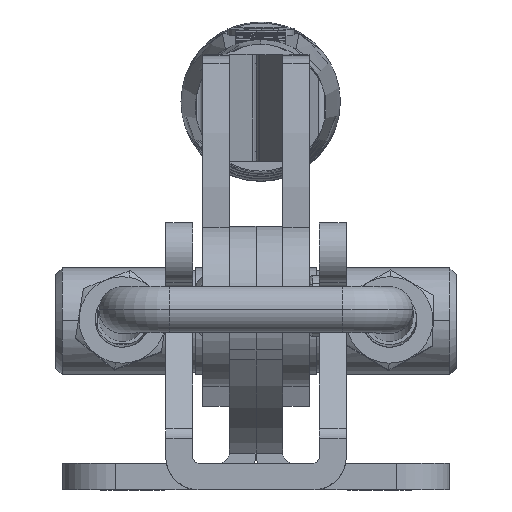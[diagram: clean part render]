
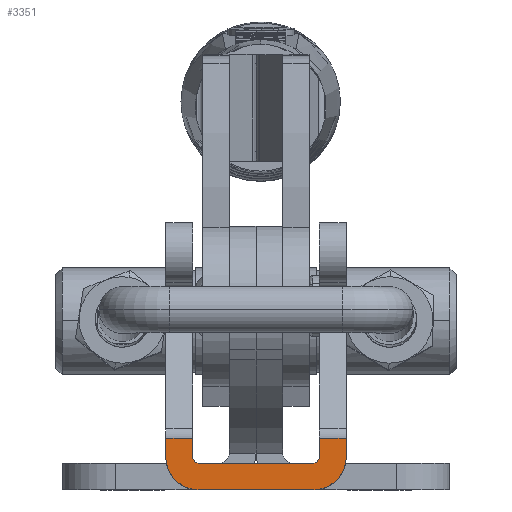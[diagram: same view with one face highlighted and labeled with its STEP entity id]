
A CAD part, left-side view. The second image highlights one B-rep face of the part: STEP entity #3351.
In plain terms, the highlighted planar face has unit normal (-1, 0, 0).
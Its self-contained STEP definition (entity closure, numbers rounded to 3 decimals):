
#167 = AXIS2_PLACEMENT_3D ( 'NONE', #15160, #21737, #26890 ) ;
#323 = EDGE_CURVE ( 'NONE', #11529, #14850, #18725, .T. ) ;
#497 = ORIENTED_EDGE ( 'NONE', *, *, #323, .T. ) ;
#531 = CARTESIAN_POINT ( 'NONE',  ( -109.582, 13.5, 46.475 ) ) ;
#626 = ORIENTED_EDGE ( 'NONE', *, *, #25451, .F. ) ;
#937 = VERTEX_POINT ( 'NONE', #1032 ) ;
#1032 = CARTESIAN_POINT ( 'NONE',  ( -109.582, -13.5, 50.235 ) ) ;
#1281 = ORIENTED_EDGE ( 'NONE', *, *, #19556, .F. ) ;
#1479 = CARTESIAN_POINT ( 'NONE',  ( -109.582, 13.5, 42.475 ) ) ;
#1778 = VERTEX_POINT ( 'NONE', #11427 ) ;
#1998 = ORIENTED_EDGE ( 'NONE', *, *, #9239, .F. ) ;
#2291 = VERTEX_POINT ( 'NONE', #23752 ) ;
#2696 = CARTESIAN_POINT ( 'NONE',  ( -109.582, -9.5, 50.235 ) ) ;
#3109 = DIRECTION ( 'NONE',  ( -1., 0., 0. ) ) ;
#3268 = FACE_OUTER_BOUND ( 'NONE', #4558, .T. ) ;
#3351 = ADVANCED_FACE ( 'NONE', ( #3268 ), #22732, .T. ) ;
#3593 = CARTESIAN_POINT ( 'NONE',  ( -109.582, -13.5, 42.475 ) ) ;
#3834 = ORIENTED_EDGE ( 'NONE', *, *, #9394, .T. ) ;
#4161 = VERTEX_POINT ( 'NONE', #30134 ) ;
#4558 = EDGE_LOOP ( 'NONE', ( #11946, #1998, #23483, #15531, #20905, #30306, #497, #1281, #17215, #626, #17993, #3834 ) ) ;
#4664 = VERTEX_POINT ( 'NONE', #10005 ) ;
#5067 = CARTESIAN_POINT ( 'NONE',  ( -109.582, -8.5, 47.475 ) ) ;
#5668 = VERTEX_POINT ( 'NONE', #17389 ) ;
#6216 = CARTESIAN_POINT ( 'NONE',  ( -109.582, 13.5, 50.235 ) ) ;
#6494 = AXIS2_PLACEMENT_3D ( 'NONE', #29341, #3109, #10721 ) ;
#8018 = VECTOR ( 'NONE', #20961, 1000. ) ;
#8042 = DIRECTION ( 'NONE',  ( 1., 0., 0. ) ) ;
#9022 = CARTESIAN_POINT ( 'NONE',  ( -109.582, 13.5, 42.475 ) ) ;
#9239 = EDGE_CURVE ( 'NONE', #26701, #4161, #18654, .T. ) ;
#9394 = EDGE_CURVE ( 'NONE', #937, #4664, #15313, .T. ) ;
#9438 = DIRECTION ( 'NONE',  ( 0., 0., 1. ) ) ;
#9874 = DIRECTION ( 'NONE',  ( 0., 1., 0. ) ) ;
#10005 = CARTESIAN_POINT ( 'NONE',  ( -109.582, -9.5, 50.235 ) ) ;
#10072 = CIRCLE ( 'NONE', #26023, 5. ) ;
#10111 = VECTOR ( 'NONE', #18404, 1000. ) ;
#10171 = VECTOR ( 'NONE', #10988, 1000. ) ;
#10287 = EDGE_CURVE ( 'NONE', #5668, #26701, #12409, .T. ) ;
#10721 = DIRECTION ( 'NONE',  ( 0., 0., 1. ) ) ;
#10892 = LINE ( 'NONE', #3593, #18650 ) ;
#10988 = DIRECTION ( 'NONE',  ( 0., 1., 0. ) ) ;
#11427 = CARTESIAN_POINT ( 'NONE',  ( -109.582, 9.5, 50.235 ) ) ;
#11477 = EDGE_CURVE ( 'NONE', #22521, #937, #10892, .T. ) ;
#11529 = VERTEX_POINT ( 'NONE', #6216 ) ;
#11946 = ORIENTED_EDGE ( 'NONE', *, *, #28014, .F. ) ;
#12409 = LINE ( 'NONE', #531, #13591 ) ;
#12793 = EDGE_CURVE ( 'NONE', #1778, #2291, #19357, .T. ) ;
#13569 = VECTOR ( 'NONE', #9874, 1000. ) ;
#13591 = VECTOR ( 'NONE', #15518, 1000. ) ;
#14850 = VERTEX_POINT ( 'NONE', #23579 ) ;
#15160 = CARTESIAN_POINT ( 'NONE',  ( -109.582, -8.5, 47.475 ) ) ;
#15313 = LINE ( 'NONE', #2696, #13569 ) ;
#15518 = DIRECTION ( 'NONE',  ( 0., -1., 0. ) ) ;
#15531 = ORIENTED_EDGE ( 'NONE', *, *, #15555, .T. ) ;
#15555 = EDGE_CURVE ( 'NONE', #5668, #2291, #30193, .T. ) ;
#15902 = DIRECTION ( 'NONE',  ( 0., 0., 1. ) ) ;
#16250 = AXIS2_PLACEMENT_3D ( 'NONE', #29155, #8042, #17277 ) ;
#16265 = VERTEX_POINT ( 'NONE', #22463 ) ;
#17215 = ORIENTED_EDGE ( 'NONE', *, *, #30340, .F. ) ;
#17277 = DIRECTION ( 'NONE',  ( 0., 0., 1. ) ) ;
#17389 = CARTESIAN_POINT ( 'NONE',  ( -109.582, 8.5, 46.475 ) ) ;
#17993 = ORIENTED_EDGE ( 'NONE', *, *, #11477, .T. ) ;
#18404 = DIRECTION ( 'NONE',  ( 0., 0., -1. ) ) ;
#18650 = VECTOR ( 'NONE', #15902, 1000. ) ;
#18654 = CIRCLE ( 'NONE', #167, 1. ) ;
#18725 = LINE ( 'NONE', #9022, #10111 ) ;
#19103 = LINE ( 'NONE', #28780, #8018 ) ;
#19134 = DIRECTION ( 'NONE',  ( 1., 0., 0. ) ) ;
#19196 = VECTOR ( 'NONE', #21519, 1000. ) ;
#19357 = LINE ( 'NONE', #28880, #19196 ) ;
#19556 = EDGE_CURVE ( 'NONE', #24342, #14850, #22819, .T. ) ;
#19654 = DIRECTION ( 'NONE',  ( 0., 0., 1. ) ) ;
#20905 = ORIENTED_EDGE ( 'NONE', *, *, #12793, .F. ) ;
#20961 = DIRECTION ( 'NONE',  ( 0., 1., 0. ) ) ;
#21519 = DIRECTION ( 'NONE',  ( 0., 0., -1. ) ) ;
#21737 = DIRECTION ( 'NONE',  ( -1., 0., 0. ) ) ;
#22463 = CARTESIAN_POINT ( 'NONE',  ( -109.582, -8.5, 42.475 ) ) ;
#22521 = VERTEX_POINT ( 'NONE', #28766 ) ;
#22645 = CARTESIAN_POINT ( 'NONE',  ( -109.582, 8.5, 42.475 ) ) ;
#22732 = PLANE ( 'NONE',  #6494 ) ;
#22819 = CIRCLE ( 'NONE', #26848, 5. ) ;
#22869 = LINE ( 'NONE', #1479, #10171 ) ;
#23483 = ORIENTED_EDGE ( 'NONE', *, *, #10287, .F. ) ;
#23579 = CARTESIAN_POINT ( 'NONE',  ( -109.582, 13.5, 47.475 ) ) ;
#23752 = CARTESIAN_POINT ( 'NONE',  ( -109.582, 9.5, 47.475 ) ) ;
#23917 = EDGE_CURVE ( 'NONE', #1778, #11529, #19103, .T. ) ;
#24342 = VERTEX_POINT ( 'NONE', #22645 ) ;
#25451 = EDGE_CURVE ( 'NONE', #22521, #16265, #10072, .T. ) ;
#25713 = DIRECTION ( 'NONE',  ( 1., 0., 0. ) ) ;
#26023 = AXIS2_PLACEMENT_3D ( 'NONE', #5067, #19134, #9438 ) ;
#26524 = CARTESIAN_POINT ( 'NONE',  ( -109.582, -9.5, 57.966 ) ) ;
#26701 = VERTEX_POINT ( 'NONE', #29656 ) ;
#26848 = AXIS2_PLACEMENT_3D ( 'NONE', #30680, #25713, #28353 ) ;
#26890 = DIRECTION ( 'NONE',  ( 0., 0., 1. ) ) ;
#28014 = EDGE_CURVE ( 'NONE', #4161, #4664, #29186, .T. ) ;
#28353 = DIRECTION ( 'NONE',  ( 0., 0., 1. ) ) ;
#28766 = CARTESIAN_POINT ( 'NONE',  ( -109.582, -13.5, 47.475 ) ) ;
#28780 = CARTESIAN_POINT ( 'NONE',  ( -109.582, 9.5, 50.235 ) ) ;
#28880 = CARTESIAN_POINT ( 'NONE',  ( -109.582, 9.5, 57.966 ) ) ;
#29155 = CARTESIAN_POINT ( 'NONE',  ( -109.582, 8.5, 47.475 ) ) ;
#29186 = LINE ( 'NONE', #26524, #29601 ) ;
#29341 = CARTESIAN_POINT ( 'NONE',  ( -109.582, -9.5, 42.475 ) ) ;
#29601 = VECTOR ( 'NONE', #19654, 1000. ) ;
#29656 = CARTESIAN_POINT ( 'NONE',  ( -109.582, -8.5, 46.475 ) ) ;
#30134 = CARTESIAN_POINT ( 'NONE',  ( -109.582, -9.5, 47.475 ) ) ;
#30193 = CIRCLE ( 'NONE', #16250, 1. ) ;
#30306 = ORIENTED_EDGE ( 'NONE', *, *, #23917, .T. ) ;
#30340 = EDGE_CURVE ( 'NONE', #16265, #24342, #22869, .T. ) ;
#30680 = CARTESIAN_POINT ( 'NONE',  ( -109.582, 8.5, 47.475 ) ) ;
